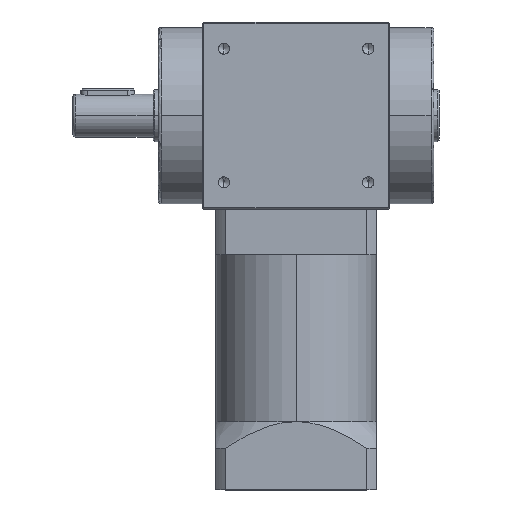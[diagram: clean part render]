
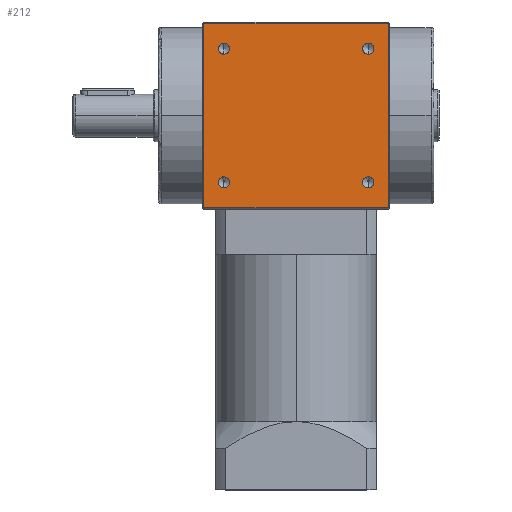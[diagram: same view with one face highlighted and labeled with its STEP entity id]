
A CAD part, top view. The second image highlights one B-rep face of the part: STEP entity #212.
In plain terms, the highlighted planar face has unit normal (0, 0, 1).
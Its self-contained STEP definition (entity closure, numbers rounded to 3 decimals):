
#208 = ORIENTED_EDGE ( 'NONE', *, *, #2814, .F. ) ;
#212 = ADVANCED_FACE ( 'NONE', ( #4464, #4881, #4735, #4822, #4949 ), #2807, .F. ) ;
#355 = CARTESIAN_POINT ( 'NONE',  ( 27., 22.9, 35. ) ) ;
#441 = CIRCLE ( 'NONE', #4718, 2.1 ) ;
#444 = LINE ( 'NONE', #9614, #6706 ) ;
#502 = AXIS2_PLACEMENT_3D ( 'NONE', #2283, #2276, #2250 ) ;
#522 = CARTESIAN_POINT ( 'NONE',  ( 27., -27.1, 35. ) ) ;
#710 = ORIENTED_EDGE ( 'NONE', *, *, #8184, .T. ) ;
#911 = CIRCLE ( 'NONE', #6061, 2.1 ) ;
#923 = ORIENTED_EDGE ( 'NONE', *, *, #6488, .T. ) ;
#1067 = DIRECTION ( 'NONE',  ( 0., -1., 0. ) ) ;
#1079 = DIRECTION ( 'NONE',  ( 0., 0., 1. ) ) ;
#1080 = CARTESIAN_POINT ( 'NONE',  ( -27., -25., 35. ) ) ;
#1107 = DIRECTION ( 'NONE',  ( 0., -1., 0. ) ) ;
#1116 = DIRECTION ( 'NONE',  ( 0., 0., 1. ) ) ;
#1120 = CARTESIAN_POINT ( 'NONE',  ( 27., -25., 35. ) ) ;
#1149 = DIRECTION ( 'NONE',  ( 0., -1., 0. ) ) ;
#1157 = DIRECTION ( 'NONE',  ( 0., 0., 1. ) ) ;
#1178 = CARTESIAN_POINT ( 'NONE',  ( 27., -25., 35. ) ) ;
#1241 = CARTESIAN_POINT ( 'NONE',  ( 34.5, -34.5, 35. ) ) ;
#1722 = DIRECTION ( 'NONE',  ( 0., 0., 1. ) ) ;
#1763 = EDGE_CURVE ( 'NONE', #3844, #5953, #2942, .T. ) ;
#1798 = CARTESIAN_POINT ( 'NONE',  ( 27., 25., 35. ) ) ;
#2250 = DIRECTION ( 'NONE',  ( 0., -1., 0. ) ) ;
#2276 = DIRECTION ( 'NONE',  ( 0., 0., 1. ) ) ;
#2283 = CARTESIAN_POINT ( 'NONE',  ( 27., 25., 35. ) ) ;
#2448 = VERTEX_POINT ( 'NONE', #3221 ) ;
#2449 = VERTEX_POINT ( 'NONE', #3191 ) ;
#2590 = DIRECTION ( 'NONE',  ( -1., 0., 0. ) ) ;
#2608 = EDGE_CURVE ( 'NONE', #3201, #9316, #5485, .T. ) ;
#2612 = DIRECTION ( 'NONE',  ( 0., 0., -1. ) ) ;
#2623 = ORIENTED_EDGE ( 'NONE', *, *, #6605, .T. ) ;
#2650 = CARTESIAN_POINT ( 'NONE',  ( 0., 0., 35. ) ) ;
#2807 = PLANE ( 'NONE',  #3965 ) ;
#2814 = EDGE_CURVE ( 'NONE', #2935, #6522, #441, .T. ) ;
#2827 = EDGE_CURVE ( 'NONE', #2449, #4549, #3697, .T. ) ;
#2842 = VERTEX_POINT ( 'NONE', #1241 ) ;
#2935 = VERTEX_POINT ( 'NONE', #522 ) ;
#2942 = CIRCLE ( 'NONE', #7951, 2.1 ) ;
#3048 = ORIENTED_EDGE ( 'NONE', *, *, #6288, .T. ) ;
#3191 = CARTESIAN_POINT ( 'NONE',  ( -27., -27.1, 35. ) ) ;
#3201 = VERTEX_POINT ( 'NONE', #4675 ) ;
#3221 = CARTESIAN_POINT ( 'NONE',  ( 34.5, 34.5, 35. ) ) ;
#3240 = ORIENTED_EDGE ( 'NONE', *, *, #5902, .F. ) ;
#3579 = VERTEX_POINT ( 'NONE', #6827 ) ;
#3679 = VECTOR ( 'NONE', #9774, 1000. ) ;
#3697 = CIRCLE ( 'NONE', #8421, 2.1 ) ;
#3725 = EDGE_CURVE ( 'NONE', #4549, #2449, #6090, .T. ) ;
#3844 = VERTEX_POINT ( 'NONE', #4419 ) ;
#3965 = AXIS2_PLACEMENT_3D ( 'NONE', #2650, #2612, #2590 ) ;
#4113 = EDGE_CURVE ( 'NONE', #6522, #2935, #911, .T. ) ;
#4361 = ORIENTED_EDGE ( 'NONE', *, *, #3725, .F. ) ;
#4419 = CARTESIAN_POINT ( 'NONE',  ( -27., 27.1, 35. ) ) ;
#4464 = FACE_OUTER_BOUND ( 'NONE', #6584, .T. ) ;
#4549 = VERTEX_POINT ( 'NONE', #9126 ) ;
#4554 = AXIS2_PLACEMENT_3D ( 'NONE', #5480, #5463, #5451 ) ;
#4675 = CARTESIAN_POINT ( 'NONE',  ( 27., 27.1, 35. ) ) ;
#4695 = EDGE_LOOP ( 'NONE', ( #5488, #4361 ) ) ;
#4718 = AXIS2_PLACEMENT_3D ( 'NONE', #1178, #1157, #1149 ) ;
#4735 = FACE_BOUND ( 'NONE', #8476, .T. ) ;
#4822 = FACE_BOUND ( 'NONE', #4695, .T. ) ;
#4881 = FACE_BOUND ( 'NONE', #7950, .T. ) ;
#4949 = FACE_BOUND ( 'NONE', #8026, .T. ) ;
#5182 = AXIS2_PLACEMENT_3D ( 'NONE', #7780, #7444, #7403 ) ;
#5217 = LINE ( 'NONE', #8433, #9432 ) ;
#5451 = DIRECTION ( 'NONE',  ( 0., -1., 0. ) ) ;
#5463 = DIRECTION ( 'NONE',  ( 0., 0., 1. ) ) ;
#5480 = CARTESIAN_POINT ( 'NONE',  ( -27., -25., 35. ) ) ;
#5485 = CIRCLE ( 'NONE', #502, 2.1 ) ;
#5488 = ORIENTED_EDGE ( 'NONE', *, *, #2827, .F. ) ;
#5667 = EDGE_CURVE ( 'NONE', #9316, #3201, #8443, .T. ) ;
#5742 = CIRCLE ( 'NONE', #5182, 2.1 ) ;
#5902 = EDGE_CURVE ( 'NONE', #5953, #3844, #5742, .T. ) ;
#5953 = VERTEX_POINT ( 'NONE', #6421 ) ;
#6061 = AXIS2_PLACEMENT_3D ( 'NONE', #1120, #1116, #1107 ) ;
#6087 = LINE ( 'NONE', #7249, #9916 ) ;
#6090 = CIRCLE ( 'NONE', #4554, 2.1 ) ;
#6236 = DIRECTION ( 'NONE',  ( 0., -1., 0. ) ) ;
#6288 = EDGE_CURVE ( 'NONE', #8225, #3579, #444, .T. ) ;
#6300 = ORIENTED_EDGE ( 'NONE', *, *, #5667, .F. ) ;
#6389 = ORIENTED_EDGE ( 'NONE', *, *, #2608, .F. ) ;
#6421 = CARTESIAN_POINT ( 'NONE',  ( -27., 22.9, 35. ) ) ;
#6488 = EDGE_CURVE ( 'NONE', #2842, #2448, #5217, .T. ) ;
#6522 = VERTEX_POINT ( 'NONE', #7625 ) ;
#6584 = EDGE_LOOP ( 'NONE', ( #923, #2623, #3048, #710 ) ) ;
#6605 = EDGE_CURVE ( 'NONE', #2448, #8225, #6087, .T. ) ;
#6706 = VECTOR ( 'NONE', #9482, 1000. ) ;
#6827 = CARTESIAN_POINT ( 'NONE',  ( -34.5, -34.5, 35. ) ) ;
#7249 = CARTESIAN_POINT ( 'NONE',  ( 0., 34.5, 35. ) ) ;
#7269 = DIRECTION ( 'NONE',  ( -1., 0., 0. ) ) ;
#7403 = DIRECTION ( 'NONE',  ( 0., -1., 0. ) ) ;
#7408 = AXIS2_PLACEMENT_3D ( 'NONE', #1798, #1722, #6236 ) ;
#7444 = DIRECTION ( 'NONE',  ( 0., 0., 1. ) ) ;
#7625 = CARTESIAN_POINT ( 'NONE',  ( 27., -22.9, 35. ) ) ;
#7780 = CARTESIAN_POINT ( 'NONE',  ( -27., 25., 35. ) ) ;
#7950 = EDGE_LOOP ( 'NONE', ( #3240, #9326 ) ) ;
#7951 = AXIS2_PLACEMENT_3D ( 'NONE', #10055, #10044, #10033 ) ;
#8026 = EDGE_LOOP ( 'NONE', ( #208, #10003 ) ) ;
#8184 = EDGE_CURVE ( 'NONE', #3579, #2842, #10259, .T. ) ;
#8225 = VERTEX_POINT ( 'NONE', #9624 ) ;
#8421 = AXIS2_PLACEMENT_3D ( 'NONE', #1080, #1079, #1067 ) ;
#8433 = CARTESIAN_POINT ( 'NONE',  ( 34.5, 0., 35. ) ) ;
#8443 = CIRCLE ( 'NONE', #7408, 2.1 ) ;
#8476 = EDGE_LOOP ( 'NONE', ( #6300, #6389 ) ) ;
#8539 = DIRECTION ( 'NONE',  ( 0., 1., 0. ) ) ;
#9126 = CARTESIAN_POINT ( 'NONE',  ( -27., -22.9, 35. ) ) ;
#9316 = VERTEX_POINT ( 'NONE', #355 ) ;
#9326 = ORIENTED_EDGE ( 'NONE', *, *, #1763, .F. ) ;
#9432 = VECTOR ( 'NONE', #8539, 1000. ) ;
#9482 = DIRECTION ( 'NONE',  ( 0., -1., 0. ) ) ;
#9614 = CARTESIAN_POINT ( 'NONE',  ( -34.5, 0., 35. ) ) ;
#9624 = CARTESIAN_POINT ( 'NONE',  ( -34.5, 34.5, 35. ) ) ;
#9774 = DIRECTION ( 'NONE',  ( 1., 0., 0. ) ) ;
#9782 = CARTESIAN_POINT ( 'NONE',  ( 0., -34.5, 35. ) ) ;
#9916 = VECTOR ( 'NONE', #7269, 1000. ) ;
#10003 = ORIENTED_EDGE ( 'NONE', *, *, #4113, .F. ) ;
#10033 = DIRECTION ( 'NONE',  ( 0., -1., 0. ) ) ;
#10044 = DIRECTION ( 'NONE',  ( 0., 0., 1. ) ) ;
#10055 = CARTESIAN_POINT ( 'NONE',  ( -27., 25., 35. ) ) ;
#10259 = LINE ( 'NONE', #9782, #3679 ) ;
